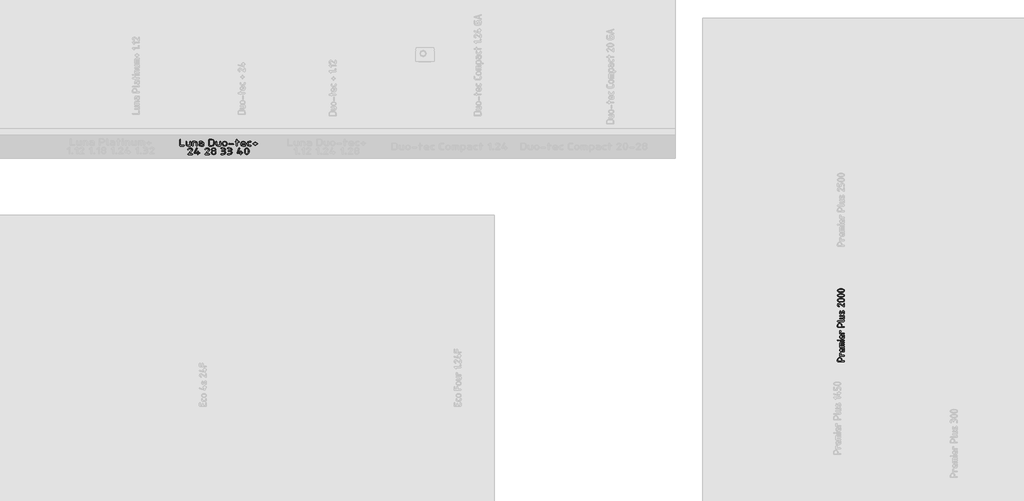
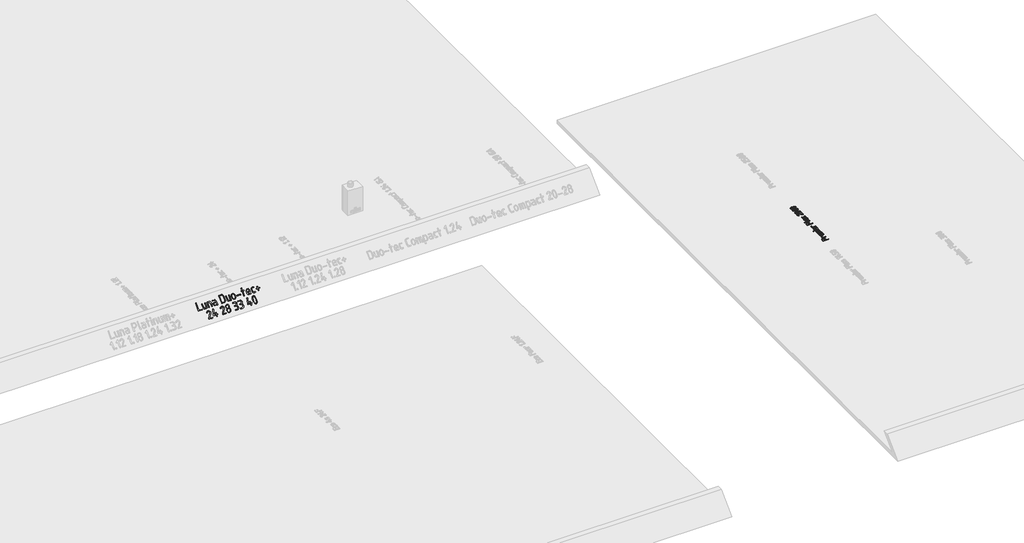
# One storey, part 23 of 37: 2 proxies.
"""IFC4 building model written with IfcOpenShell, lengths in millimetres."""

from ifc_helpers import new_model, si_unit, frame, origin, place, context, project, spatial, polyline, outline, extrude, element, save

model = new_model("IFC4")

# Units and contexts
model_context = context("Model", 3, world=origin())
ifc_project = project(units=[si_unit("LENGTHUNIT", "METRE", prefix="MILLI")], contexts=[model_context])

# Site, building, storey
site = spatial("IfcSite", under=ifc_project)
building = spatial("IfcBuilding", under=site)
storey = spatial("IfcBuildingStorey", under=building, Name="01_Стартовый вид_Площадка", Elevation=0.0)

# Proxies
placement = place(None, origin())
element("IfcBuildingElementProxy", 1, Name="200мм", ObjectType="200мм", at=placement, inside=storey, context=model_context, shape_type="SweptSolid", body=[
    extrude(outline(polyline([(181.0073918, 0.0), (188.5582446, -2.5569025), (191.0751955, -10.2276101), (188.5715617, -17.8983177), (181.0606606, -20.4552203), (10.3874165, -20.4552203), (10.3874165, -90.4504271), (7.830514, -97.9613283), (0.1598064, -100.464962), (-7.5109012, -97.9613283), (-10.0678037, -90.4504271), (-10.0678037, -10.2276101), (-7.5508528, -2.5569025), (0.0, 0.0), (181.0073918, 0.0)])), frame((16548.3716253, -5002.7168331, 164.7105041), z_axis=(0.0, -0.7071067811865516, 0.7071067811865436), x_axis=(0.0, 0.7071067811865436, 0.7071067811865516)), (0.0, 0.0, 1.0), 10.0),
    extrude(outline(polyline([(7.8963814, 0.0), (121.2937942, -38.8098098), (127.5601636, -43.5725011), (127.5101016, -51.4095223), (111.5032112, -98.1796553), (103.8057301, -111.7461768), (91.4765408, -120.9968587), (76.5112491, -124.9537749), (60.9054607, -122.6389988), (-24.1173995, -93.5402659), (-30.3578956, -88.7019763), (-30.230214, -80.6381603), (-25.39024, -74.1871075), (-17.4938586, -74.1871075), (67.1762097, -103.1650988), (82.2515299, -102.3002329), (92.2362967, -91.3041202), (104.7416799, -54.7649537), (1.2728405, -19.3531584), (-4.9676556, -14.5148688), (-4.8399741, -6.4510528), (0.0, 0.0), (7.8963814, 0.0)])), frame((16784.4589592, -4912.7592612, 254.668076), z_axis=(0.0, -0.7071067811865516, 0.7071067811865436), x_axis=(0.32380687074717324, -0.6690101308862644, -0.6690101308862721)), (0.0, 0.0, 1.0), 10.0),
    extrude(outline(polyline([(7.8963814, 0.0), (121.2937942, -38.8098097), (127.5601636, -43.5725011), (127.5101016, -51.4095223), (111.5032112, -98.1796552), (103.8057301, -111.7461767), (91.4765408, -120.9968587), (76.5112491, -124.9537748), (60.9054607, -122.6389988), (-24.1173995, -93.5402659), (-30.3578956, -88.7019763), (-30.230214, -80.6381603), (-25.39024, -74.1871075), (-17.4938586, -74.1871074), (67.1762097, -103.1650987), (82.3596044, -102.4779764), (92.2362968, -91.3041201), (104.7416799, -54.7649537), (1.2728405, -19.3531584), (-4.9676556, -14.5148688), (-4.8399741, -6.4510528), (0.0, 0.0), (7.8963814, 0.0)])), frame((16830.4832048, -5008.0749257, 159.3524115), z_axis=(0.0, -0.7071067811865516, 0.7071067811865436), x_axis=(-0.32380687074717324, 0.6690101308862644, 0.6690101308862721)), (0.0, 0.0, 1.0), 10.0),
    extrude(outline(polyline([(50.232481, 0.0), (65.7203854, -2.9630772), (78.6247529, -11.8523086), (87.3342021, -25.0429959), (90.2373519, -40.9104406), (84.9104716, -61.5254672), (70.5678464, -76.7470276), (50.232481, -81.8208811), (10.2276101, -81.8208811), (10.2276101, -100.5714997), (15.9806408, -113.9153347), (30.2034111, -119.3221182), (70.208282, -119.3221182), (77.7191832, -121.8790207), (80.2228169, -129.5497283), (77.7191832, -137.2204359), (70.208282, -139.7773385), (30.2034111, -139.7773385), (14.6289449, -136.8875059), (1.5714297, -128.2180083), (-7.2778502, -115.3402752), (-10.2276102, -99.8257364), (-10.2276102, -9.9612662), (-7.6707076, -2.4903165), (0.0, 0.0), (50.232481, 0.0)]), holes=[polyline([(10.2276101, -61.3656608), (50.232481, -61.3656608), (57.9231644, -59.8741343), (64.3753481, -55.3995549), (68.7500486, -48.7942233), (70.208282, -40.9104406), (64.2954449, -26.5012294), (57.8232854, -21.9667225), (50.232481, -20.4552203), (10.2276101, -20.4552203), (10.2276101, -61.3656608)])]), frame((17056.3429285, -5009.8358454, 157.5914918), z_axis=(0.0, -0.7071067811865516, 0.7071067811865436), x_axis=(-1.0, 0.0, 0.0)), (0.0, 0.0, 1.0), 10.0),
    extrude(outline(polyline([(181.0073918, 0.0), (188.5582446, -2.4903166), (191.0751955, -9.9612661), (191.0751955, -69.6223252), (187.4395998, -88.918949), (176.5328124, -104.9395415), (160.3257791, -115.726474), (140.7894457, -119.3221182), (40.2179461, -119.3221182), (20.8813707, -115.6865224), (4.6343858, -104.7797351), (-6.3922563, -88.719191), (-10.0678037, -69.6223252), (-10.0678037, -9.9612661), (-7.5508528, -2.4903166), (0.0, 0.0), (181.0073918, 0.0)]), holes=[polyline([(170.6199752, -20.4552203), (10.3874165, -20.4552203), (10.3874165, -69.4625188), (12.5847546, -80.7621636), (19.176769, -90.2639863), (28.8850083, -96.7161701), (40.4310213, -98.866898), (140.5763705, -98.866898), (152.1223835, -96.7161701), (161.8306228, -90.2639863), (168.4226372, -80.7621636), (170.6199752, -69.4625188), (170.6199752, -20.4552203)])]), frame((17175.6650467, -5002.7168331, 164.7105041), z_axis=(0.0, -0.7071067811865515, 0.7071067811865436), x_axis=(0.0, 0.7071067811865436, 0.7071067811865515)), (0.0, 0.0, 1.0), 10.0),
    extrude(outline(polyline([(7.8963814, 0.0), (121.2937942, -38.8098098), (127.5601636, -43.5725011), (127.5101016, -51.4095223), (111.5032112, -98.1796553), (103.8057301, -111.7461768), (91.4765408, -120.9968588), (76.5112491, -124.9537749), (60.9054607, -122.6389988), (-24.1173995, -93.5402659), (-30.3578956, -88.7019763), (-30.230214, -80.6381603), (-25.39024, -74.1871075), (-17.4938586, -74.1871075), (67.1762097, -103.1650988), (82.2515299, -102.3002329), (92.2362967, -91.3041202), (104.7416799, -54.7649538), (1.2728405, -19.3531585), (-4.9676556, -14.5148688), (-4.8399741, -6.4510528), (0.0, 0.0), (7.8963814, 0.0)])), frame((17432.2076009, -4912.7592612, 254.668076), z_axis=(0.0, -0.7071067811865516, 0.7071067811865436), x_axis=(0.32380687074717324, -0.6690101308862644, -0.6690101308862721)), (0.0, 0.0, 1.0), 10.0),
    extrude(outline(polyline([(19.5277268, 0.0), (58.788553, -7.3971647), (76.977393, -14.5033742), (90.8173495, -28.1486773), (98.6171829, -45.8732873), (98.6856532, -65.2174179), (91.5847543, -83.4140342), (77.9948346, -97.0679287), (60.1996699, -104.6308689), (40.4830361, -104.5546223), (1.22221, -97.1574576), (-16.96663, -90.0512481), (-30.8065866, -76.405945), (-38.6064199, -58.6813349), (-38.6748903, -39.3372044), (-31.5717163, -21.3442893), (-17.856617, -7.6733255), (0.0, 0.0), (19.5277268, 0.0)]), holes=[polyline([(5.5853838, -77.1644064), (44.8985576, -84.5714339), (56.5989581, -84.6144501), (67.3060997, -80.1473937), (75.5187711, -72.1612621), (79.7357612, -61.647053), (79.6340604, -50.3191558), (74.8906592, -39.8919599), (66.5432132, -31.8348129), (55.6293778, -27.6170623), (16.316204, -20.2100347), (4.5148066, -20.1276624), (-6.1812393, -24.5358276), (-14.3509513, -32.5097259), (-18.5733473, -43.1245527), (-18.4716465, -54.4524499), (-13.7282453, -64.8796458), (-5.3677123, -72.9392586), (5.5853838, -77.1644064)])]), frame((17479.2905639, -4988.1115579, 179.3157793), z_axis=(0.0, -0.7071067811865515, 0.7071067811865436), x_axis=(-0.1851531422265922, 0.694880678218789, 0.6948806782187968)), (0.0, 0.0, 1.0), 10.0),
    extrude(outline(polyline([(7.934191, 0.0), (83.6754055, -25.7842432), (89.9616023, -30.6252263), (89.8596755, -38.6935314), (85.0176196, -45.1481755), (77.0834286, -45.1481755), (1.3422141, -19.3639323), (-4.9439827, -14.5229492), (-4.8420561, -6.4546441), (0.0, 0.0), (7.934191, 0.0)])), frame((17712.508041, -4971.8677798, 195.5595573), z_axis=(0.0, -0.7071067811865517, 0.7071067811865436), x_axis=(-0.9466499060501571, -0.22787491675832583, -0.22787491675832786)), (0.0, 0.0, 1.0), 10.0),
    extrude(outline(polyline([(109.3608521, 0.0), (109.3608521, 10.0145349), (111.9177546, 17.5254361), (119.5884622, 20.0290698), (127.2591698, 17.5254361), (129.8160723, 10.0145349), (129.8160723, 0.0), (180.954123, 0.0), (188.6248306, -2.5569025), (191.1817331, -10.2276101), (188.6248306, -17.8983177), (180.954123, -20.4552203), (129.8160723, -20.4552203), (129.8160723, -50.498825), (127.2591698, -57.9697746), (119.5884622, -60.4600912), (111.9177546, -57.9697746), (109.3608521, -50.498825), (109.3608521, -20.4552203), (0.0, -20.4552203), (-7.4709496, -17.8983177), (-9.9612662, -10.2276101), (-7.4709496, -2.5569025), (0.0, 0.0), (109.3608521, 0.0)])), frame((17775.6848411, -5002.7921665, 164.6351706), z_axis=(0.0, -0.7071067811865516, 0.7071067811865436), x_axis=(0.0, 0.7071067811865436, 0.7071067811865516)), (0.0, 0.0, 1.0), 10.0),
    extrude(outline(polyline([(80.0097418, 0.0), (80.0097418, 20.4552203), (74.0969047, 34.8644314), (67.6247451, 39.3989383), (60.0339407, 40.9104406), (10.0145349, 40.9104406), (2.5036338, 43.4673431), (0.0, 51.1380507), (2.5036338, 58.8087582), (10.0145349, 61.3656608), (60.0339407, 61.3656608), (75.575114, 58.4758283), (88.6392878, 49.8063307), (97.5085435, 36.9285976), (100.464962, 21.4140587), (100.464962, -28.4988095), (96.7561217, -47.6888956), (85.6296005, -63.8160257), (69.309371, -74.7627646), (50.0194058, -78.4116777), (30.5829514, -74.8693023), (14.46248, -64.2421761), (3.61562, -48.4479761), (0.0, -29.4043791), (0.0, 0.0), (80.0097418, 0.0)]), holes=[polyline([(50.0194058, -60.4600912), (61.5254672, -58.262753), (71.2203893, -51.6707387), (77.8124037, -41.9758166), (80.0097418, -30.4697552), (80.0097418, -20.4552203), (20.0290699, -20.4552203), (20.0290699, -30.4697552), (22.226408, -41.9758166), (28.8184223, -51.6707387), (38.5133444, -58.262753), (50.0194058, -60.4600912)])]), frame((17975.0167011, -4966.4437705, 200.9835667), z_axis=(0.0, -0.7071067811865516, 0.7071067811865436), x_axis=(-1.0, 0.0, 0.0)), (0.0, 0.0, 1.0), 10.0),
    extrude(outline(polyline([(15.150878, 0.0), (69.9183341, 22.8458531), (80.4980469, 33.6657617), (80.467285, 48.8903841), (68.9008028, 76.6182523), (68.3843818, 84.4977287), (74.505091, 89.749238), (82.5432932, 90.4040175), (87.7793514, 84.493304), (99.3458336, 56.7654358), (102.6619405, 41.3096074), (99.6902548, 25.9147409), (91.2197, 12.7713241), (78.0392002, 4.0698442), (22.7801153, -18.9810884), (7.3232334, -22.2254877), (-7.9764677, -18.9976633), (-21.0073016, -10.2781336), (-29.6575818, 2.9525825), (-41.224064, 30.6804508), (-41.7404849, 38.5599271), (-35.6197758, 43.8114365), (-27.5815735, 44.4662159), (-22.3455154, 38.5555025), (-10.7790332, 10.8276342), (0.0, 0.0), (15.150878, 0.0)])), frame((18040.6172317, -4929.5492068, 237.8781303), z_axis=(0.0, -0.7071067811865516, 0.7071067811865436), x_axis=(-0.3849898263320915, -0.652603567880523, -0.6526035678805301)), (0.0, 0.0, 1.0), 10.0),
    extrude(outline(polyline([(30.6828304, 0.0), (30.6828304, 29.990336), (33.2397329, 37.5012372), (40.9104405, 40.0048709), (48.5811482, 37.5012372), (51.1380507, 29.990336), (51.1380507, 0.0), (79.2639785, 0.0), (86.2954605, -2.5569025), (88.6392878, -10.2276101), (86.2954605, -17.8983177), (79.2639785, -20.4552202), (51.1380507, -20.4552202), (51.1380507, -50.4455562), (48.5811482, -57.9564574), (40.9104405, -60.4600911), (33.2397329, -57.9564574), (30.6828304, -50.4455562), (30.6828304, -20.4552202), (0.0, -20.4552202), (-7.6707076, -17.8983177), (-10.2276102, -10.2276101), (-7.6707076, -2.5569025), (0.0, 0.0), (30.6828304, 0.0)])), frame((18174.5616363, -4988.1398079, 179.2875292), z_axis=(0.0, -0.7071067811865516, 0.7071067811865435), x_axis=(0.0, 0.7071067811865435, 0.7071067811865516)), (0.0, 0.0, 1.0), 10.0),
    extrude(outline(polyline([(14.6692355, -1e-07), (33.1062034, -6.6022306), (47.3681923, -19.9776427), (55.6930957, -37.6934159), (56.3188068, -57.3167297), (51.8407371, -71.1866426), (42.8424616, -84.4831553), (-35.1387131, -175.0883818), (26.2241519, -184.7023202), (33.2487616, -188.3909847), (34.5349086, -196.3567718), (30.8741353, -203.5475071), (23.0579835, -204.9110167), (-55.9874908, -192.526681), (-63.0203458, -188.8906433), (-64.3312285, -181.0827367), (-61.7484404, -175.6102614), (28.9539759, -70.2294251), (36.4734081, -54.5849109), (36.0907364, -42.8313549), (31.0839534, -32.2000358), (22.5293125, -24.1671007), (11.5030671, -20.2086965), (-5.5868318, -23.8935588), (-23.3858748, -40.1921121), (-32.6617347, -43.6454248), (-39.6945896, -40.0093871), (-41.0054723, -32.2014805), (-39.423307, -28.2976301), (-27.0462712, -14.148815), (-13.9051688, -4.7162717), (0.0, 0.0), (14.6692355, -1e-07)])), frame((16764.1069472, -5054.0252421, 113.402095), z_axis=(0.0, -0.7071067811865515, 0.7071067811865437), x_axis=(0.9879481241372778, 0.10944976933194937, 0.10944976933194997)), (0.0, 0.0, 1.0), 10.0),
    extrude(outline(polyline([(7.917185, 0.0), (10.3934109, -1.1623101), (130.7514682, -83.4504991), (134.8406101, -88.4913877), (134.6089903, -94.955685), (129.8713131, -101.2936443), (121.9920295, -101.306278), (119.4147331, -99.941827), (10.4776363, -25.3349921), (-4.3291842, -69.7554535), (24.1726819, -79.2560755), (30.4516834, -84.044288), (30.3885144, -92.1088673), (25.600302, -98.5984323), (17.7041733, -98.6616014), (-10.7976928, -89.1609793), (-17.1314408, -108.1622233), (-21.9196532, -114.4412249), (-29.9842326, -114.3780558), (-36.4737975, -109.5898434), (-36.5369666, -101.6937147), (-30.2032186, -82.6924707), (-59.3115073, -72.9897078), (-65.7800159, -68.1383263), (-65.7800159, -60.0526905), (-60.9286345, -53.584182), (-52.8429987, -53.584182), (-23.73471, -63.2869449), (-4.750311, -6.333748), (0.0, 0.0), (7.917185, 0.0)])), frame((16869.4759684, -5163.9508902, 3.476447), z_axis=(0.0, -0.7071067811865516, 0.7071067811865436), x_axis=(-0.3162277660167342, 0.6708203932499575, 0.6708203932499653)), (0.0, 0.0, 1.0), 10.0),
    extrude(outline(polyline([(14.6692354, 0.0), (33.1062033, -6.6022306), (47.3681923, -19.9776427), (55.6930956, -37.6934159), (56.3188067, -57.3167297), (51.840737, -71.1866426), (42.8424615, -84.4831552), (-35.1387131, -175.0883818), (26.2241518, -184.7023202), (33.2487615, -188.3909847), (34.5349085, -196.3567718), (30.8741352, -203.5475071), (23.0579834, -204.9110167), (-55.9874909, -192.526681), (-63.0203458, -188.8906433), (-64.3312286, -181.0827367), (-61.7484405, -175.6102614), (28.9539758, -70.2294251), (36.4734081, -54.5849109), (36.0907364, -42.8313549), (31.0839533, -32.2000358), (22.5293124, -24.1671007), (11.503067, -20.2086965), (-5.5868318, -23.8935588), (-23.3858749, -40.1921121), (-32.6617348, -43.6454248), (-39.6945896, -40.0093871), (-41.0054724, -32.2014805), (-39.423307, -28.2976301), (-27.0462713, -14.148815), (-13.9051689, -4.7162717), (0.0, 0.0), (14.6692354, 0.0)])), frame((17132.300912, -5054.0252421, 113.402095), z_axis=(0.0, -0.7071067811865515, 0.7071067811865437), x_axis=(0.9879481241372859, 0.10944976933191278, 0.10944976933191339)), (0.0, 0.0, 1.0), 10.0),
    extrude(outline(polyline([(19.3492934, -1e-07), (37.3021898, -7.2172481), (50.8907264, -21.0775012), (58.4538498, -39.0891101), (58.3305061, -58.7604253), (54.5055923, -78.5294091), (45.2021075, -99.6935115), (26.7831062, -114.1294511), (38.4882707, -134.393831), (39.2261747, -157.5007466), (32.0032554, -175.7984321), (18.2676521, -189.6891516), (0.4899241, -197.4806427), (-18.8593693, -197.4806427), (-36.8122656, -190.2633946), (-50.4008023, -176.4031415), (-57.9639257, -158.3915327), (-57.8405819, -138.7202175), (-48.5370972, -117.5561152), (-30.1180959, -103.1201754), (-38.5930198, -89.0149671), (-41.7235021, -73.3666114), (-38.7362506, -39.9798962), (-31.5133313, -21.6822107), (-17.777728, -7.7914911), (0.0, 0.0), (19.3492934, -1e-07)]), holes=[polyline([(-3.4484071, -117.8294196), (-14.8709321, -117.8371255), (-25.2902091, -122.4744251), (-33.3254593, -130.7741326), (-37.5959036, -141.7690618), (-37.69615, -153.469112), (-33.2815193, -164.1979754), (-25.3356545, -172.4496115), (-14.8421979, -176.7179799), (-3.4196729, -176.7102739), (6.9996041, -172.0729742), (15.0348542, -163.7732668), (19.3052985, -152.7783375), (19.4441299, -140.9840215), (15.084541, -130.2861539), (7.1469044, -122.0971486), (-3.4484071, -117.8294196)]), polyline([(15.4636667, -20.0827773), (4.0398768, -20.0970206), (-6.3831948, -24.7539323), (-14.4222394, -33.0732518), (-18.6939486, -44.0747184), (-22.4885059, -63.6868056), (-22.5887524, -75.3868557), (-18.1741217, -86.1157192), (-10.2282568, -94.3673553), (0.2651997, -98.6357236), (11.6877247, -98.6280176), (22.1070017, -93.990718), (30.1422519, -85.6910106), (34.4126962, -74.6960813), (38.2072535, -55.0839941), (38.3473497, -43.2831408), (33.9915553, -32.5656611), (26.0577134, -24.3570436), (15.4636667, -20.0827773)])]), frame((17305.4611433, -5192.050272, -24.6229349), z_axis=(0.0, -0.7071067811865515, 0.7071067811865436), x_axis=(-0.9817922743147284, -0.13432038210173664, -0.13432038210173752)), (0.0, 0.0, 1.0), 10.0),
    extrude(outline(polyline([(11.7053441, 0.0), (31.3410585, 3.6703332), (39.1938897, 2.537007), (43.0643072, -4.5430923), (42.0127056, -12.5432217), (35.0994797, -16.4366385), (15.4637653, -20.1069717), (4.465269, -24.43209), (-3.8154004, -32.787719), (-8.4170172, -43.7206871), (-8.3783556, -55.7778225), (-4.051707, -66.9657026), (4.2497875, -75.5003523), (15.0165566, -80.3362531), (26.7390288, -80.4278864), (66.0628195, -73.0774324), (73.9156508, -74.2107586), (77.7860684, -81.2908578), (76.7344667, -89.2909873), (69.8212407, -93.184404), (30.49745, -100.5348579), (10.8458725, -100.387662), (-7.2665742, -92.3117814), (-21.242703, -78.0977854), (-28.4853272, -59.5362437), (-27.7768506, -36.0744134), (-16.3140932, -15.6421798), (-34.2831279, -1.2668369), (-43.2938982, 19.6873187), (-46.9348688, 39.1659475), (-46.775927, 58.6097289), (-38.7235342, 76.4129584), (-24.658181, 90.0971196), (-6.4603584, 97.1836959), (32.8634323, 104.5341499), (40.7162636, 103.4008237), (44.5866812, 96.3207245), (43.5350795, 88.320595), (36.6218535, 84.4271783), (-2.7019372, 77.0767244), (-13.7175616, 72.8432393), (-22.0496157, 64.7625103), (-26.7270861, 54.235347), (-26.7789594, 42.6625591), (-23.1771391, 23.3933781), (-18.9410253, 12.6898455), (-10.7153844, 4.5610007), (0.0, 0.0), (11.7053441, 0.0)])), frame((17504.9195166, -5126.2606168, 41.1667203), z_axis=(0.0, -0.7071067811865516, 0.7071067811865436), x_axis=(-0.9829750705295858, 0.12992307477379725, 0.12992307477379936)), (0.0, 0.0, 1.0), 10.0),
    extrude(outline(polyline([(11.7053441, 0.0), (31.3410585, 3.6703332), (39.1938897, 2.537007), (43.0643073, -4.5430923), (42.0127056, -12.5432217), (35.0994797, -16.4366385), (15.4637653, -20.1069717), (4.465269, -24.43209), (-3.8154004, -32.787719), (-8.4170172, -43.7206871), (-8.3783556, -55.7778225), (-4.051707, -66.9657026), (4.2497875, -75.5003523), (15.0165566, -80.3362531), (26.7390288, -80.4278864), (66.0628196, -73.0774324), (73.9156509, -74.2107585), (77.7860684, -81.2908578), (76.7344668, -89.2909873), (69.8212408, -93.184404), (30.49745, -100.5348579), (10.8458725, -100.387662), (-7.2665742, -92.3117814), (-21.2427029, -78.0977854), (-28.4853271, -59.5362437), (-27.7768506, -36.0744134), (-16.3140932, -15.6421798), (-34.2831279, -1.2668369), (-43.2938981, 19.6873188), (-46.9348687, 39.1659475), (-46.7759269, 58.6097289), (-38.7235342, 76.4129584), (-24.658181, 90.0971196), (-6.4603584, 97.1836959), (32.8634324, 104.5341499), (40.7162637, 103.4008238), (44.5866812, 96.3207245), (43.5350796, 88.320595), (36.6218536, 84.4271783), (-2.7019372, 77.0767244), (-13.7175616, 72.8432393), (-22.0496157, 64.7625103), (-26.7270861, 54.235347), (-26.7789594, 42.6625591), (-23.1771391, 23.3933781), (-18.9410253, 12.6898455), (-10.7153844, 4.5610007), (0.0, 0.0), (11.7053441, 0.0)])), frame((17644.6968551, -5126.2606168, 41.1667203), z_axis=(0.0, -0.7071067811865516, 0.7071067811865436), x_axis=(-0.982975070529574, 0.12992307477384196, 0.12992307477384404)), (0.0, 0.0, 1.0), 10.0),
    extrude(outline(polyline([(7.917185, 0.0), (10.3934109, -1.1623101), (130.7514682, -83.4504991), (134.8406101, -88.4913877), (134.6089903, -94.955685), (129.8713131, -101.2936443), (121.9920295, -101.306278), (119.4147331, -99.941827), (10.4776363, -25.3349921), (-4.3291842, -69.7554535), (24.1726819, -79.2560755), (30.4516834, -84.044288), (30.3885144, -92.1088674), (25.600302, -98.5984324), (17.7041733, -98.6616014), (-10.7976928, -89.1609793), (-17.1314408, -108.1622234), (-21.9196532, -114.4412249), (-29.9842326, -114.3780559), (-36.4737975, -109.5898434), (-36.5369666, -101.6937148), (-30.2032186, -82.6924707), (-59.3115073, -72.9897078), (-65.780016, -68.1383264), (-65.7800159, -60.0526906), (-60.9286345, -53.584182), (-52.8429987, -53.584182), (-23.73471, -63.2869449), (-4.750311, -6.333748), (0.0, 0.0), (7.917185, 0.0)])), frame((17793.3700836, -5163.9508902, 3.476447), z_axis=(0.0, -0.7071067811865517, 0.7071067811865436), x_axis=(-0.3162277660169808, 0.6708203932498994, 0.6708203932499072)), (0.0, 0.0, 1.0), 10.0),
    extrude(outline(polyline([(33.5896076, 0.0), (66.8986549, -4.3323324), (95.0632349, -12.6820125), (111.3579664, -21.0737202), (122.7383843, -31.0621998), (129.2044884, -42.6474518), (130.756279, -55.8294759), (127.5272211, -68.7018941), (119.6507799, -79.358328), (107.1269555, -87.7987777), (89.9557477, -94.0232434), (60.9096187, -98.6679789), (27.2004069, -98.6602333), (-6.2282447, -94.3201554), (-34.4326929, -85.9678934), (-50.6576551, -77.580704), (-61.9882379, -67.5954516), (-68.4244409, -56.0121361), (-69.9662645, -42.8307574), (-66.7272396, -29.9589847), (-58.8208973, -19.3044871), (-46.2472378, -10.8672647), (-29.006261, -4.6473173), (0.0, 0.0), (33.5896076, 0.0)]), holes=[polyline([(32.267704, -20.4124621), (-14.8413308, -22.4862153), (-40.3558735, -30.7092741), (-46.9944147, -36.7784265), (-49.5538025, -44.152661), (-47.9524236, -51.7262834), (-42.1189924, -58.5530721), (-17.7559727, -69.9661483), (28.5223105, -78.2477712), (75.6313453, -76.1740181), (101.145888, -67.9509592), (107.7844292, -61.8818068), (110.3438169, -54.5075724), (108.7569233, -46.8648262), (102.9566205, -39.9901388), (78.715787, -28.54494), (32.267704, -20.4124621)])]), frame((18049.659611, -5099.8326962, 67.5946409), z_axis=(0.0, -0.7071067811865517, 0.7071067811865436), x_axis=(0.06462426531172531, -0.7056286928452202, -0.7056286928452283)), (0.0, 0.0, 1.0), 10.0),
])
element("IfcBuildingElementProxy", 2, Name="150 мм", ObjectType="150 мм", at=placement, inside=storey, context=model_context, shape_type="SweptSolid", body=[
    extrude(outline(polyline([(30764.4863843, -9668.7582704), (30764.4863843, -9631.4834256), (30767.8423188, -9614.2293275), (30777.9101226, -9599.7818294), (30792.7721185, -9589.9986808), (30810.5106299, -9586.7376313), (30829.0481732, -9589.8288865), (30843.7503628, -9599.1026521), (30853.3387473, -9613.3204285), (30856.5348755, -9631.243716), (30856.5348755, -9660.8878048), (30907.9925389, -9660.8878048), (30913.50586, -9662.8054817), (30915.3436337, -9668.5585124), (30913.4559205, -9674.3115431), (30907.7927809, -9676.22922), (30772.0372371, -9676.22922), (30766.3740975, -9674.3614826), (30764.4863843, -9668.7582704)]), holes=[polyline([(30779.8277995, -9660.8878048), (30841.1934603, -9660.8878048), (30841.1934603, -9631.4834256), (30838.9711524, -9620.0922251), (30832.3042288, -9610.6087135), (30822.4112133, -9604.2114633), (30810.5106299, -9602.0790465), (30798.6100464, -9604.2114633), (30788.7170309, -9610.6087135), (30782.0501073, -9620.0922251), (30779.8277995, -9631.4834256), (30779.8277995, -9660.8878048)])]), frame((0.0, 0.0, 11.1696829), z_axis=(0.0, 0.0, 1.0), x_axis=(1.0, 0.0, 0.0)), (0.0, 0.0, 1.0), 10.0),
    extrude(outline(polyline([(30817.9815795, -9556.0548009), (30812.3783673, -9554.137124), (30810.5106299, -9548.3840933), (30810.5106299, -9503.1988314), (30812.4283068, -9497.5956192), (30818.1813375, -9495.7278818), (30833.3629463, -9495.7278818), (30838.9961221, -9497.5956192), (30840.8738474, -9503.1988314), (30838.9961221, -9508.8320073), (30833.3629463, -9510.7097326), (30825.8520451, -9510.7097326), (30825.8520451, -9540.7133857), (30907.8726841, -9540.7133857), (30913.4758963, -9542.6310626), (30915.3436337, -9548.3840933), (30913.4758963, -9554.137124), (30907.8726841, -9556.0548009), (30817.9815795, -9556.0548009)])), frame((0.0, 0.0, 11.1696829), z_axis=(0.0, 0.0, 1.0), x_axis=(1.0, 0.0, 0.0)), (0.0, 0.0, 1.0), 10.0),
    extrude(outline(polyline([(30869.3193881, -9451.2217971), (30884.6608033, -9451.2217971), (30895.4677117, -9446.7871692), (30900.0022185, -9436.2399463), (30900.0022185, -9398.7253919), (30901.9198954, -9393.092216), (30907.6729261, -9391.2144907), (30913.4259568, -9393.092216), (30915.3436337, -9398.7253919), (30915.3436337, -9436.2399463), (30913.1762593, -9447.8958262), (30906.6741361, -9457.6939566), (30897.0158363, -9464.3458983), (30885.3799322, -9466.5632123), (30847.945281, -9466.5632123), (30833.5527164, -9463.781582), (30821.4573688, -9455.4366911), (30813.2473146, -9443.196519), (30810.5106299, -9428.7290451), (30813.1674114, -9414.1517043), (30821.137756, -9402.0613507), (30832.983406, -9393.9262057), (30847.2661038, -9391.2144907), (30869.3193881, -9391.2144907), (30869.3193881, -9451.2217971)]), holes=[polyline([(30823.9743198, -9428.7290451), (30825.6223234, -9437.3585911), (30830.5663341, -9444.6297827), (30837.8375257, -9449.5737935), (30846.4670717, -9451.2217971), (30853.9779729, -9451.2217971), (30853.9779729, -9406.2362931), (30846.4670717, -9406.2362931), (30837.8375257, -9407.8842967), (30830.5663341, -9412.8283075), (30825.6223234, -9420.099499), (30823.9743198, -9428.7290451)])]), frame((0.0, 0.0, 11.1696829), z_axis=(0.0, 0.0, 1.0), x_axis=(1.0, 0.0, 0.0)), (0.0, 0.0, 1.0), 10.0),
    extrude(outline(polyline([(30810.5106299, -9354.0595008), (30810.5106299, -9285.0231324), (30812.6780043, -9273.122549), (30819.1801275, -9263.2295335), (30828.8384273, -9256.5626099), (30840.4743314, -9254.340302), (30907.8726841, -9254.340302), (30913.4758963, -9256.2579789), (30915.3436337, -9262.0110096), (30913.4758963, -9267.7640403), (30907.8726841, -9269.6817172), (30840.7539926, -9269.6817172), (30830.1468423, -9274.0963693), (30825.8520451, -9285.0231324), (30825.8520451, -9300.3645476), (30907.8726841, -9300.3645476), (30913.4758963, -9302.2822245), (30915.3436337, -9308.0352552), (30913.4758963, -9313.7882859), (30907.8726841, -9315.7059628), (30825.8520451, -9315.7059628), (30825.8520451, -9346.3887932), (30907.8726841, -9346.3887932), (30913.4758963, -9348.3064701), (30915.3436337, -9354.0595008), (30913.4758963, -9359.8125315), (30907.8726841, -9361.7302084), (30817.9815795, -9361.7302084), (30812.3783673, -9359.8125315), (30810.5106299, -9354.0595008)])), frame((0.0, 0.0, 11.1696829), z_axis=(0.0, 0.0, 1.0), x_axis=(1.0, 0.0, 0.0)), (0.0, 0.0, 1.0), 10.0),
    extrude(outline(polyline([(30817.821773, -9223.6574716), (30812.2185609, -9221.7397947), (30810.3508235, -9215.986764), (30812.2185609, -9210.2337333), (30817.821773, -9208.3160564), (30907.8327325, -9208.3160564), (30913.4659084, -9210.2337333), (30915.3436337, -9215.986764), (30913.4659084, -9221.7397947), (30907.8327325, -9223.6574716), (30817.821773, -9223.6574716)])), frame((0.0, 0.0, 11.1696829), z_axis=(0.0, 0.0, 1.0), x_axis=(1.0, 0.0, 0.0)), (0.0, 0.0, 1.0), 10.0),
    extrude(outline(polyline([(30779.5081867, -9223.6574716), (30771.9972855, -9223.6574716), (30766.3641096, -9221.7397947), (30764.4863843, -9215.986764), (30766.3641096, -9210.2337333), (30771.9972855, -9208.3160564), (30779.5081867, -9208.3160564), (30785.1413625, -9210.2337333), (30787.0190878, -9215.986764), (30785.1413625, -9221.7397947), (30779.5081867, -9223.6574716)])), frame((0.0, 0.0, 11.1696829), z_axis=(0.0, 0.0, 1.0), x_axis=(1.0, 0.0, 0.0)), (0.0, 0.0, 1.0), 10.0),
    extrude(outline(polyline([(30869.3193881, -9162.2918108), (30884.6608033, -9162.2918108), (30895.4677117, -9157.857183), (30900.0022185, -9147.3099601), (30900.0022185, -9109.7954057), (30901.9198954, -9104.1622298), (30907.6729261, -9102.2845045), (30913.4259568, -9104.1622298), (30915.3436337, -9109.7954057), (30915.3436337, -9147.3099601), (30913.1762593, -9158.96584), (30906.6741361, -9168.7639704), (30897.0158363, -9175.4159121), (30885.3799322, -9177.633226), (30847.945281, -9177.633226), (30833.5527164, -9174.8515957), (30821.4573688, -9166.5067049), (30813.2473146, -9154.2665328), (30810.5106299, -9139.7990589), (30813.1674114, -9125.2217181), (30821.137756, -9113.1313645), (30832.983406, -9104.9962195), (30847.2661038, -9102.2845045), (30869.3193881, -9102.2845045), (30869.3193881, -9162.2918108)]), holes=[polyline([(30823.9743198, -9139.7990589), (30825.6223234, -9148.4286049), (30830.5663341, -9155.6997965), (30837.8375257, -9160.6438073), (30846.4670717, -9162.2918108), (30853.9779729, -9162.2918108), (30853.9779729, -9117.3063069), (30846.4670717, -9117.3063069), (30837.8375257, -9118.9543105), (30830.5663341, -9123.8983212), (30825.6223234, -9131.1695128), (30823.9743198, -9139.7990589)])]), frame((0.0, 0.0, 11.1696829), z_axis=(0.0, 0.0, 1.0), x_axis=(1.0, 0.0, 0.0)), (0.0, 0.0, 1.0), 10.0),
    extrude(outline(polyline([(30817.9815795, -9072.8002222), (30812.3783673, -9070.8825453), (30810.5106299, -9065.1295146), (30810.5106299, -9019.9442526), (30812.4283068, -9014.3410404), (30818.1813375, -9012.4733031), (30833.3629463, -9012.4733031), (30838.9961221, -9014.3410404), (30840.8738474, -9019.9442526), (30838.9961221, -9025.5774285), (30833.3629463, -9027.4551538), (30825.8520451, -9027.4551538), (30825.8520451, -9057.458807), (30907.8726841, -9057.458807), (30913.4758963, -9059.3764839), (30915.3436337, -9065.1295146), (30913.4758963, -9070.8825453), (30907.8726841, -9072.8002222), (30817.9815795, -9072.8002222)])), frame((0.0, 0.0, 11.1696829), z_axis=(0.0, 0.0, 1.0), x_axis=(1.0, 0.0, 0.0)), (0.0, 0.0, 1.0), 10.0),
    extrude(outline(polyline([(30764.4863843, -8924.6996333), (30764.4863843, -8887.4247886), (30767.8423188, -8870.1706904), (30777.9101226, -8855.7231923), (30792.7721185, -8845.9400437), (30810.5106299, -8842.6789942), (30829.0481732, -8845.7702494), (30843.7503628, -8855.0440151), (30853.3387473, -8869.2617915), (30856.5348755, -8887.1850789), (30856.5348755, -8916.8291677), (30907.9925389, -8916.8291677), (30913.50586, -8918.7468446), (30915.3436337, -8924.4998753), (30913.4559205, -8930.252906), (30907.7927809, -8932.1705829), (30772.0372371, -8932.1705829), (30766.3740975, -8930.3028455), (30764.4863843, -8924.6996333)]), holes=[polyline([(30779.8277995, -8916.8291677), (30841.1934603, -8916.8291677), (30841.1934603, -8887.4247886), (30838.9711524, -8876.033588), (30832.3042288, -8866.5500765), (30822.4112133, -8860.1528262), (30810.5106299, -8858.0204094), (30798.6100464, -8860.1528262), (30788.7170309, -8866.5500765), (30782.0501073, -8876.033588), (30779.8277995, -8887.4247886), (30779.8277995, -8916.8291677)])]), frame((0.0, 0.0, 11.1696829), z_axis=(0.0, 0.0, 1.0), x_axis=(1.0, 0.0, 0.0)), (0.0, 0.0, 1.0), 10.0),
    extrude(outline(polyline([(30772.0372371, -8811.9961638), (30766.3740975, -8810.0784869), (30764.4863843, -8804.3254562), (30766.3740975, -8798.5724255), (30772.0372371, -8796.6547486), (30892.7310269, -8796.6547486), (30897.5052434, -8794.7820173), (30900.2419281, -8789.1638232), (30902.9886008, -8783.5456292), (30907.7927809, -8781.6728979), (30913.4559205, -8783.5406353), (30915.3436337, -8789.1438474), (30913.8454486, -8798.3676736), (30909.3508934, -8805.6638349), (30902.1995566, -8810.4130816), (30892.7310269, -8811.9961638), (30772.0372371, -8811.9961638)])), frame((0.0, 0.0, 11.1696829), z_axis=(0.0, 0.0, 1.0), x_axis=(1.0, 0.0, 0.0)), (0.0, 0.0, 1.0), 10.0),
    extrude(outline(polyline([(30817.9815795, -8679.0372321), (30907.8726841, -8679.0372321), (30913.4758963, -8680.8949816), (30915.3436337, -8686.4682301), (30915.3436337, -8723.5433168), (30913.1762593, -8735.0393903), (30906.6741361, -8744.5978111), (30897.0158363, -8751.040007), (30885.3799322, -8753.1874056), (30817.9815795, -8753.1874056), (30812.3783673, -8751.2697287), (30810.5106299, -8745.516698), (30812.3783673, -8739.7636673), (30817.9815795, -8737.8459904), (30885.1002709, -8737.8459904), (30895.5875665, -8733.571169), (30900.0022185, -8723.3435588), (30900.0022185, -8694.3786473), (30817.9815795, -8694.3786473), (30812.3783673, -8692.4609704), (30810.5106299, -8686.7079397), (30812.3783673, -8680.954909), (30817.9815795, -8679.0372321)])), frame((0.0, 0.0, 11.1696829), z_axis=(0.0, 0.0, 1.0), x_axis=(1.0, 0.0, 0.0)), (0.0, 0.0, 1.0), 10.0),
    extrude(outline(polyline([(30888.8157699, -8588.7066598), (30882.6931869, -8590.294736), (30878.6281114, -8595.0589646), (30860.1704712, -8633.572309), (30850.6420142, -8644.9285518), (30836.5191228, -8648.7139661), (30825.0929646, -8646.0372088), (30816.623225, -8638.0069368), (30812.0387786, -8627.6794476), (30810.5106299, -8615.0747172), (30812.6280648, -8599.2239191), (30818.9803695, -8585.1509672), (30825.7321903, -8581.1957586), (30831.0257775, -8583.4130725), (30833.2430914, -8588.7066598), (30832.3242046, -8592.2224008), (30827.4700849, -8603.3289462), (30825.8520451, -8615.0747172), (30828.6286814, -8629.0378021), (30836.9585904, -8633.6921638), (30842.9413429, -8632.1540271), (30846.9065394, -8627.539617), (30865.5639375, -8588.7066598), (30875.0923946, -8577.440308), (30889.215286, -8573.6848574), (30901.1008876, -8576.3815906), (30909.590603, -8584.47179), (30913.905376, -8595.0290009), (30915.3436337, -8608.2429932), (30913.2261988, -8628.0889516), (30906.8738941, -8644.4790963), (30900.0022185, -8648.7139661), (30894.7086312, -8646.4966522), (30892.4913173, -8641.203065), (30893.0506398, -8638.3665012), (30897.245558, -8627.6594718), (30900.0022185, -8607.8035256), (30897.2056064, -8593.4808763), (30888.8157699, -8588.7066598)])), frame((0.0, 0.0, 11.1696829), z_axis=(0.0, 0.0, 1.0), x_axis=(1.0, 0.0, 0.0)), (0.0, 0.0, 1.0), 10.0),
    extrude(outline(polyline([(30764.4863843, -8455.2283573), (30767.2380509, -8440.800835), (30775.4930506, -8428.6805177), (30787.6533195, -8420.4554816), (30802.1207934, -8417.7138029), (30812.9177139, -8419.4217339), (30823.8145134, -8424.5455269), (30900.0022185, -8471.8082721), (30900.0022185, -8425.2247041), (30901.9198954, -8419.5915282), (30907.6729261, -8417.7138029), (30913.4259568, -8419.5915282), (30915.3436337, -8425.2247041), (30915.3436337, -8485.2320104), (30913.4659084, -8490.8651863), (30907.8327325, -8492.7429116), (30903.4780079, -8491.4644604), (30814.8653545, -8436.4910559), (30802.4004546, -8432.7356053), (30793.7359509, -8434.3836089), (30786.4397896, -8439.3276197), (30781.480797, -8446.5988112), (30779.8277995, -8455.2283573), (30784.5420885, -8467.4635354), (30798.6849557, -8478.7598509), (30802.3205514, -8485.2320104), (30800.4428261, -8490.8651863), (30794.8096503, -8492.7429116), (30791.7333769, -8492.0237828), (30771.2981324, -8475.8533719), (30766.1893213, -8466.09769), (30764.4863843, -8455.2283573)])), frame((0.0, 0.0, 11.1696829), z_axis=(0.0, 0.0, 1.0), x_axis=(1.0, 0.0, 0.0)), (0.0, 0.0, 1.0), 10.0),
    extrude(outline(polyline([(30839.915009, -8313.4001699), (30865.0545546, -8315.0281977), (30886.5385286, -8319.912281), (30908.1423574, -8332.3272414), (30913.5433146, -8340.6846172), (30915.3436337, -8350.4752566), (30913.5508056, -8360.2658961), (30908.1723211, -8368.6232719), (30886.6583834, -8381.0382322), (30865.1444457, -8385.9223156), (30839.915009, -8387.5503434), (30814.6855723, -8385.9223156), (30793.1716346, -8381.0382322), (30771.6576968, -8368.6232719), (30766.2792124, -8360.2658961), (30764.4863843, -8350.4752566), (30766.2867033, -8340.6846172), (30771.6876605, -8332.3272414), (30793.2914894, -8319.912281), (30814.7754634, -8315.0281977), (30839.915009, -8313.4001699)]), holes=[polyline([(30839.915009, -8328.7415851), (30804.7575992, -8332.5769389), (30786.0602494, -8339.9679853), (30779.8277995, -8350.4752566), (30786.0902131, -8360.8926369), (30804.877454, -8368.2537196), (30839.915009, -8372.2089282), (30875.0724188, -8368.3735744), (30893.7697686, -8360.982528), (30900.0022185, -8350.4752566), (30893.7697686, -8339.9679853), (30875.0724188, -8332.5769389), (30839.915009, -8328.7415851)])]), frame((0.0, 0.0, 11.1696829), z_axis=(0.0, 0.0, 1.0), x_axis=(1.0, 0.0, 0.0)), (0.0, 0.0, 1.0), 10.0),
    extrude(outline(polyline([(30839.915009, -8208.5671661), (30865.0545546, -8210.1951938), (30886.5385286, -8215.0792772), (30908.1423574, -8227.4942375), (30913.5433146, -8235.8516133), (30915.3436337, -8245.6422528), (30913.5508056, -8255.4328923), (30908.1723211, -8263.790268), (30886.6583834, -8276.2052284), (30865.1444457, -8281.0893117), (30839.915009, -8282.7173395), (30814.6855723, -8281.0893117), (30793.1716346, -8276.2052284), (30771.6576968, -8263.790268), (30766.2792124, -8255.4328923), (30764.4863843, -8245.6422528), (30766.2867033, -8235.8516133), (30771.6876605, -8227.4942375), (30793.2914894, -8215.0792772), (30814.7754634, -8210.1951938), (30839.915009, -8208.5671661)]), holes=[polyline([(30839.915009, -8223.9085813), (30804.7575992, -8227.7439351), (30786.0602494, -8235.1349814), (30779.8277995, -8245.6422528), (30786.0902131, -8256.059633), (30804.877454, -8263.4207157), (30839.915009, -8267.3759243), (30875.0724188, -8263.5405705), (30893.7697686, -8256.1495241), (30900.0022185, -8245.6422528), (30893.7697686, -8235.1349814), (30875.0724188, -8227.7439351), (30839.915009, -8223.9085813)])]), frame((0.0, 0.0, 11.1696829), z_axis=(0.0, 0.0, 1.0), x_axis=(1.0, 0.0, 0.0)), (0.0, 0.0, 1.0), 10.0),
    extrude(outline(polyline([(30839.915009, -8103.7341622), (30865.0545546, -8105.36219), (30886.5385286, -8110.2462734), (30908.1423574, -8122.6612337), (30913.5433146, -8131.0186095), (30915.3436337, -8140.8092489), (30913.5508056, -8150.5998884), (30908.1723211, -8158.9572642), (30886.6583834, -8171.3722245), (30865.1444457, -8176.2563079), (30839.915009, -8177.8843357), (30814.6855723, -8176.2563079), (30793.1716346, -8171.3722245), (30771.6576968, -8158.9572642), (30766.2792124, -8150.5998884), (30764.4863843, -8140.8092489), (30766.2867033, -8131.0186095), (30771.6876605, -8122.6612337), (30793.2914894, -8110.2462734), (30814.7754634, -8105.36219), (30839.915009, -8103.7341622)]), holes=[polyline([(30839.915009, -8119.0755774), (30804.7575992, -8122.9109312), (30786.0602494, -8130.3019776), (30779.8277995, -8140.8092489), (30786.0902131, -8151.2266292), (30804.877454, -8158.5877119), (30839.915009, -8162.5429205), (30875.0724188, -8158.7075667), (30893.7697686, -8151.3165203), (30900.0022185, -8140.8092489), (30893.7697686, -8130.3019776), (30875.0724188, -8122.9109312), (30839.915009, -8119.0755774)])]), frame((0.0, 0.0, 11.1696829), z_axis=(0.0, 0.0, 1.0), x_axis=(1.0, 0.0, 0.0)), (0.0, 0.0, 1.0), 10.0),
])

save(model, "model.ifc")
